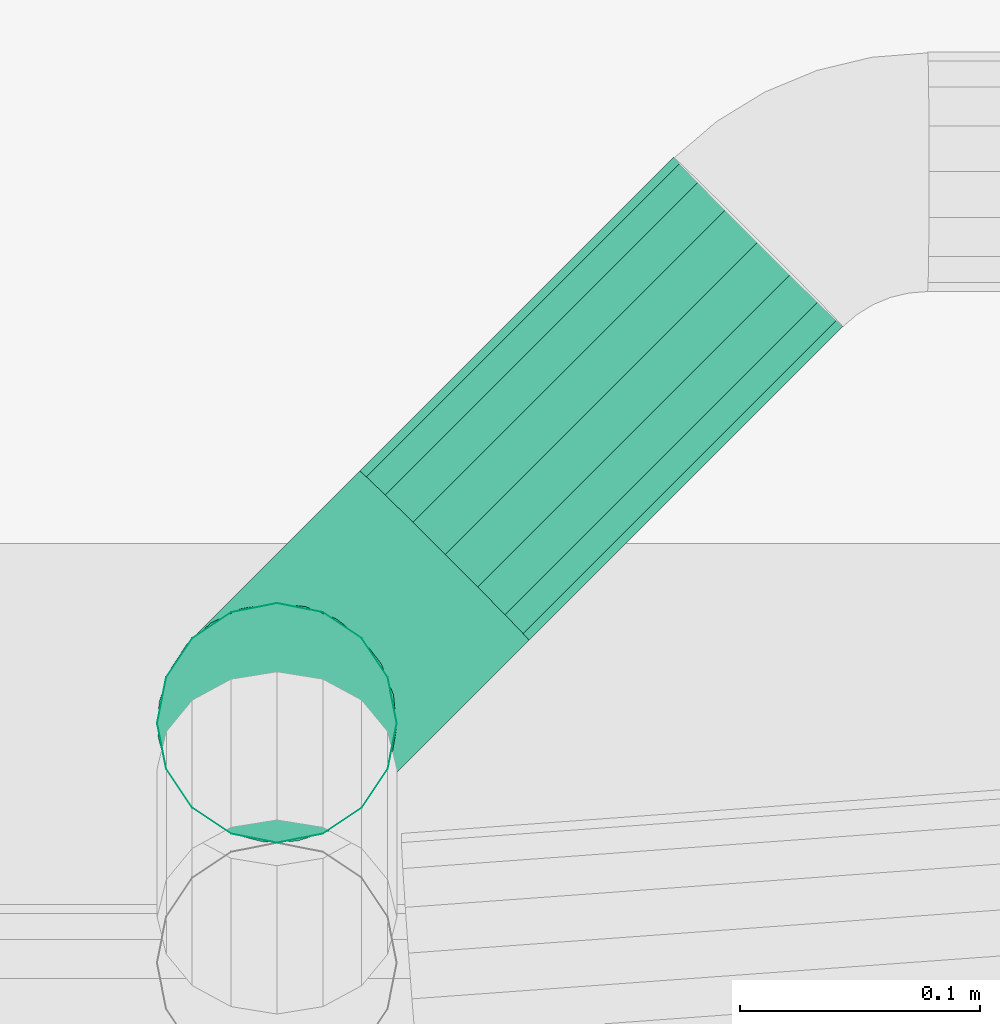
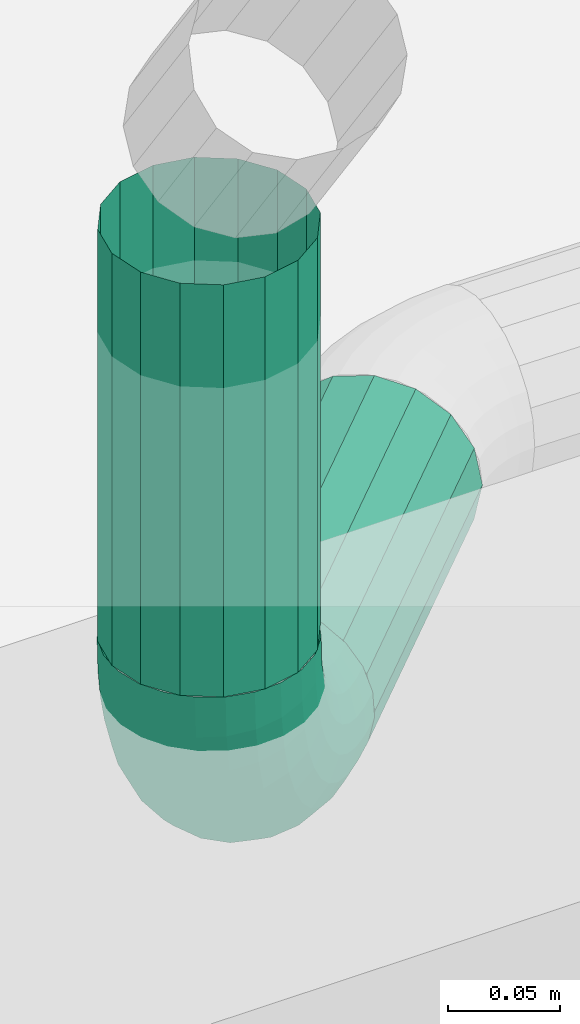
# One storey, part 87 of 108: 2 flow segments, 1 flow fitting.
"""IFC2X3 building model written with IfcOpenShell, lengths in metres."""

from ifc_helpers import new_model, entity, si_unit, converted_unit, derived_unit, money_unit, direction, frame, origin_with_axes, place, context, subcontext, project, spatial, open_shell, faceted_brep, surface_model, material, type_object, element, save


model = new_model("IFC2X3")

# Units and contexts
model_context = context("Model", 3, precision=1e-05, world=origin_with_axes(), true_north=direction((0.0, 1.0)))
body_context = subcontext(model_context, "Body", "Model", "MODEL_VIEW", scale=1.0)
ifc_project = project(units=[si_unit("LENGTHUNIT", "METRE"), si_unit("AREAUNIT", "SQUARE_METRE"), si_unit("VOLUMEUNIT", "CUBIC_METRE"), si_unit("ABSORBEDDOSEUNIT", "GRAY"), si_unit("AMOUNTOFSUBSTANCEUNIT", "MOLE"), si_unit("DOSEEQUIVALENTUNIT", "SIEVERT"), si_unit("ELECTRICCAPACITANCEUNIT", "FARAD"), si_unit("ELECTRICCHARGEUNIT", "COULOMB"), si_unit("ELECTRICCONDUCTANCEUNIT", "SIEMENS"), si_unit("ELECTRICCURRENTUNIT", "AMPERE"), si_unit("ELECTRICRESISTANCEUNIT", "OHM"), si_unit("ELECTRICVOLTAGEUNIT", "VOLT"), si_unit("ENERGYUNIT", "JOULE"), si_unit("FORCEUNIT", "NEWTON"), si_unit("FREQUENCYUNIT", "HERTZ"), si_unit("ILLUMINANCEUNIT", "LUX"), si_unit("INDUCTANCEUNIT", "HENRY"), si_unit("LUMINOUSFLUXUNIT", "LUMEN"), si_unit("LUMINOUSINTENSITYUNIT", "CANDELA"), si_unit("MAGNETICFLUXDENSITYUNIT", "TESLA"), si_unit("MAGNETICFLUXUNIT", "WEBER"), si_unit("MASSUNIT", "GRAM"), converted_unit("PLANEANGLEUNIT", "degree", entity("IfcReal", 0.0174532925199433), si_unit("PLANEANGLEUNIT", "RADIAN"), dimensions=[0, 0, 0, 0, 0, 0, 0]), si_unit("POWERUNIT", "WATT"), si_unit("PRESSUREUNIT", "PASCAL"), si_unit("RADIOACTIVITYUNIT", "BECQUEREL"), si_unit("SOLIDANGLEUNIT", "STERADIAN"), si_unit("THERMODYNAMICTEMPERATUREUNIT", "KELVIN"), si_unit("TIMEUNIT", "SECOND"), derived_unit("ACCELERATIONUNIT", [(si_unit("LENGTHUNIT", "METRE"), 1), (si_unit("TIMEUNIT", "SECOND"), -2)]), derived_unit("ANGULARVELOCITYUNIT", [(converted_unit("PLANEANGLEUNIT", "degree", entity("IfcReal", 0.0174532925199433), si_unit("PLANEANGLEUNIT", "RADIAN"), dimensions=[0, 0, 0, 0, 0, 0, 0]), 1), (si_unit("TIMEUNIT", "SECOND"), -1)]), derived_unit("CURVATUREUNIT", [(converted_unit("PLANEANGLEUNIT", "degree", entity("IfcReal", 0.0174532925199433), si_unit("PLANEANGLEUNIT", "RADIAN"), dimensions=[0, 0, 0, 0, 0, 0, 0]), 1), (si_unit("LENGTHUNIT", "METRE"), -1)]), derived_unit("DYNAMICVISCOSITYUNIT", [(si_unit("PRESSUREUNIT", "PASCAL"), 1), (si_unit("TIMEUNIT", "SECOND"), 1)]), derived_unit("HEATFLUXDENSITYUNIT", [(si_unit("POWERUNIT", "WATT"), 1), (si_unit("LENGTHUNIT", "METRE"), -2)]), derived_unit("HEATINGVALUEUNIT", [(si_unit("ENERGYUNIT", "JOULE"), 1), (si_unit("MASSUNIT", "GRAM"), -1)]), derived_unit("INTEGERCOUNTRATEUNIT", [(si_unit("TIMEUNIT", "SECOND"), -1)]), derived_unit("IONCONCENTRATIONUNIT", [(si_unit("MASSUNIT", "GRAM"), 1), (si_unit("VOLUMEUNIT", "CUBIC_METRE"), -1)]), derived_unit("ISOTHERMALMOISTURECAPACITYUNIT", [(si_unit("VOLUMEUNIT", "CUBIC_METRE"), 1), (si_unit("MASSUNIT", "GRAM"), -1)]), derived_unit("KINEMATICVISCOSITYUNIT", [(si_unit("AREAUNIT", "SQUARE_METRE"), 1), (si_unit("TIMEUNIT", "SECOND"), -1)]), derived_unit("LINEARFORCEUNIT", [(si_unit("FORCEUNIT", "NEWTON"), 1), (si_unit("LENGTHUNIT", "METRE"), -1)]), derived_unit("LINEARMOMENTUNIT", [(si_unit("FORCEUNIT", "NEWTON"), 1), (si_unit("LENGTHUNIT", "METRE"), -1)]), derived_unit("LINEARSTIFFNESSUNIT", [(si_unit("FORCEUNIT", "NEWTON"), 1), (si_unit("LENGTHUNIT", "METRE"), -1)]), derived_unit("LINEARVELOCITYUNIT", [(si_unit("LENGTHUNIT", "METRE"), 1), (si_unit("TIMEUNIT", "SECOND"), -1)]), derived_unit("LUMINOUSINTENSITYDISTRIBUTIONUNIT", [(si_unit("LUMINOUSINTENSITYUNIT", "CANDELA"), 1), (si_unit("LUMINOUSFLUXUNIT", "LUMEN"), -1)]), derived_unit("MASSDENSITYUNIT", [(si_unit("MASSUNIT", "GRAM"), 1), (si_unit("VOLUMEUNIT", "CUBIC_METRE"), -1)]), derived_unit("MASSFLOWRATEUNIT", [(si_unit("MASSUNIT", "GRAM"), 1), (si_unit("TIMEUNIT", "SECOND"), -1)]), derived_unit("MASSPERLENGTHUNIT", [(si_unit("MASSUNIT", "GRAM"), 1), (si_unit("LENGTHUNIT", "METRE"), -1)]), derived_unit("MODULUSOFELASTICITYUNIT", [(si_unit("FORCEUNIT", "NEWTON"), 1), (si_unit("AREAUNIT", "SQUARE_METRE"), -1)]), derived_unit("MODULUSOFLINEARSUBGRADEREACTIONUNIT", [(si_unit("FORCEUNIT", "NEWTON"), 1), (si_unit("LENGTHUNIT", "METRE"), -2)]), derived_unit("MODULUSOFROTATIONALSUBGRADEREACTIONUNIT", [(si_unit("FORCEUNIT", "NEWTON"), 1), (si_unit("LENGTHUNIT", "METRE"), 1)]), derived_unit("MODULUSOFSUBGRADEREACTIONUNIT", [(si_unit("FORCEUNIT", "NEWTON"), 1), (si_unit("VOLUMEUNIT", "CUBIC_METRE"), -1)]), derived_unit("MOISTUREDIFFUSIVITYUNIT", [(si_unit("VOLUMEUNIT", "CUBIC_METRE"), 1), (si_unit("TIMEUNIT", "SECOND"), -1)]), derived_unit("MOLECULARWEIGHTUNIT", [(si_unit("MASSUNIT", "GRAM"), 1), (si_unit("AMOUNTOFSUBSTANCEUNIT", "MOLE"), -1)]), derived_unit("PLANARFORCEUNIT", [(si_unit("FORCEUNIT", "NEWTON"), 1), (si_unit("LENGTHUNIT", "METRE"), -2)]), derived_unit("ROTATIONALFREQUENCYUNIT", [(si_unit("TIMEUNIT", "SECOND"), -1)]), derived_unit("ROTATIONALMASSUNIT", [(si_unit("MASSUNIT", "GRAM"), 1), (si_unit("LENGTHUNIT", "METRE"), 2)]), derived_unit("ROTATIONALSTIFFNESSUNIT", [(si_unit("FORCEUNIT", "NEWTON"), 1), (si_unit("LENGTHUNIT", "METRE"), 1), (converted_unit("PLANEANGLEUNIT", "degree", entity("IfcReal", 0.0174532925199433), si_unit("PLANEANGLEUNIT", "RADIAN"), dimensions=[0, 0, 0, 0, 0, 0, 0]), -1)]), derived_unit("SECTIONAREAINTEGRALUNIT", [(si_unit("LENGTHUNIT", "METRE"), 5)]), derived_unit("SECTIONMODULUSUNIT", [(si_unit("LENGTHUNIT", "METRE"), 3)]), derived_unit("SHEARMODULUSUNIT", [(si_unit("FORCEUNIT", "NEWTON"), 1), (si_unit("AREAUNIT", "SQUARE_METRE"), -1)]), derived_unit("SOUNDPOWERUNIT", [(si_unit("ENERGYUNIT", "JOULE"), 1), (si_unit("TIMEUNIT", "SECOND"), -1)]), derived_unit("SPECIFICHEATCAPACITYUNIT", [(si_unit("FORCEUNIT", "NEWTON"), 1), (si_unit("MASSUNIT", "GRAM"), -1), (si_unit("THERMODYNAMICTEMPERATUREUNIT", "KELVIN"), -1)]), derived_unit("TEMPERATUREGRADIENTUNIT", [(si_unit("THERMODYNAMICTEMPERATUREUNIT", "KELVIN"), 1), (si_unit("LENGTHUNIT", "METRE"), -1)]), derived_unit("THERMALADMITTANCEUNIT", [(si_unit("POWERUNIT", "WATT"), 1), (si_unit("AREAUNIT", "SQUARE_METRE"), -1), (si_unit("THERMODYNAMICTEMPERATUREUNIT", "KELVIN"), -1)]), derived_unit("THERMALCONDUCTANCEUNIT", [(si_unit("POWERUNIT", "WATT"), 1), (si_unit("LENGTHUNIT", "METRE"), -1), (si_unit("THERMODYNAMICTEMPERATUREUNIT", "KELVIN"), -1)]), derived_unit("THERMALEXPANSIONCOEFFICIENTUNIT", [(si_unit("THERMODYNAMICTEMPERATUREUNIT", "KELVIN"), -1)]), derived_unit("THERMALRESISTANCEUNIT", [(si_unit("AREAUNIT", "SQUARE_METRE"), 1), (si_unit("POWERUNIT", "WATT"), -1)]), derived_unit("THERMALTRANSMITTANCEUNIT", [(si_unit("POWERUNIT", "WATT"), 1), (si_unit("AREAUNIT", "SQUARE_METRE"), -1), (si_unit("THERMODYNAMICTEMPERATUREUNIT", "KELVIN"), -1)]), derived_unit("TORQUEUNIT", [(si_unit("FORCEUNIT", "NEWTON"), 1), (si_unit("LENGTHUNIT", "METRE"), 1)]), derived_unit("VAPORPERMEABILITYUNIT", [(si_unit("MASSUNIT", "GRAM"), 1), (si_unit("TIMEUNIT", "SECOND"), -1)]), derived_unit("VOLUMETRICFLOWRATEUNIT", [(si_unit("VOLUMEUNIT", "CUBIC_METRE"), 1), (si_unit("TIMEUNIT", "SECOND"), -1)]), derived_unit("WARPINGCONSTANTUNIT", [(si_unit("LENGTHUNIT", "METRE"), 6)]), derived_unit("WARPINGMOMENTUNIT", [(si_unit("FORCEUNIT", "NEWTON"), 1), (si_unit("LENGTHUNIT", "METRE"), 2)]), money_unit("GBP")], contexts=[model_context])

# Site, building, storey
site_placement = place(None, origin_with_axes())
site = spatial("IfcSite", under=ifc_project, at=site_placement, Name="Site", CompositionType="ELEMENT")
building_placement = place(site_placement, origin_with_axes())
building = spatial("IfcBuilding", under=site, at=building_placement, Name="Building01", CompositionType="ELEMENT")
storey_placement = place(building_placement, origin_with_axes())
storey = spatial("IfcBuildingStorey", under=building, at=storey_placement, Name="GF", CompositionType="ELEMENT", Elevation=0.0)

# Flow segments
ifc_material = material(Name="M_BSUK_ColdWater")
pipe_segment_type = type_object("IfcPipeSegmentType", Name="M-BmpStraightpipe-DefaultPipe", PredefinedType="RIGIDSEGMENT")
flow_segment_1_placement = place(storey_placement, frame((12.778585, 9.073056, 5.15473), z_axis=(1.0, 0.0, 0.0), x_axis=(0.0, 0.0, -1.0)))
element("IfcFlowSegment", 1, at=flow_segment_1_placement, inside=storey, type_object=pipe_segment_type, material=ifc_material, Name="M-BmpStraightpipe-DefaultPipe", ObjectType="M-BmpStraightpipe-DefaultPipe", context=body_context, shape_type="Brep", body=[
    faceted_brep([(0.224045, 0.0, -0.05), (0.0, 0.0, -0.05), (0.0, 0.019134, -0.046194), (0.224045, 0.019134, -0.046194), (0.0, 0.035355, -0.035355), (0.224045, 0.035355, -0.035355), (0.0, 0.046194, -0.019134), (0.224045, 0.046194, -0.019134), (0.0, 0.05, 0.0), (0.224045, 0.05, 0.0), (0.0, 0.046194, 0.019134), (0.224045, 0.046194, 0.019134), (0.0, 0.035355, 0.035355), (0.224045, 0.035355, 0.035355), (0.0, 0.019134, 0.046194), (0.224045, 0.019134, 0.046194), (0.0, 0.0, 0.05), (0.224045, 0.0, 0.05), (0.0, -0.019134, 0.046194), (0.224045, -0.019134, 0.046194), (0.0, -0.035355, 0.035355), (0.224045, -0.035355, 0.035355), (0.0, -0.046194, 0.019134), (0.224045, -0.046194, 0.019134), (0.0, -0.05, 0.0), (0.224045, -0.05, 0.0), (0.0, -0.046194, -0.019134), (0.224045, -0.046194, -0.019134), (0.0, -0.035355, -0.035355), (0.224045, -0.035355, -0.035355), (0.0, -0.019134, -0.046194), (0.224045, -0.019134, -0.046194)], [[[0, 1, 2, 3]], [[3, 2, 4, 5]], [[5, 4, 6, 7]], [[7, 6, 8, 9]], [[9, 8, 10, 11]], [[11, 10, 12, 13]], [[13, 12, 14, 15]], [[15, 14, 16, 17]], [[17, 16, 18, 19]], [[19, 18, 20, 21]], [[21, 20, 22, 23]], [[23, 22, 24, 25]], [[25, 24, 26, 27]], [[27, 26, 28, 29]], [[29, 28, 30, 31]], [[31, 30, 1, 0]]]),
])
flow_segment_2_placement = place(storey_placement, frame((12.848411, 9.142883, 4.830693), z_axis=(0.00883814, 0.00883814, 0.99992188), x_axis=(0.70705154, 0.70705154, -0.01249902)))
element("IfcFlowSegment", 2, at=flow_segment_2_placement, inside=storey, type_object=pipe_segment_type, material=ifc_material, Name="M-BmpStraightpipe-DefaultPipe", ObjectType="M-BmpStraightpipe-DefaultPipe", context=body_context, shape_type="Brep", body=[
    faceted_brep([(0.185116, 0.0, -0.05), (0.0, 0.0, -0.05), (0.0, 0.019134, -0.046194), (0.185116, 0.019134, -0.046194), (0.0, 0.035355, -0.035355), (0.185116, 0.035355, -0.035355), (0.0, 0.046194, -0.019134), (0.185116, 0.046194, -0.019134), (0.0, 0.05, 0.0), (0.185116, 0.05, 0.0), (0.0, 0.046194, 0.019134), (0.185116, 0.046194, 0.019134), (0.0, 0.035355, 0.035355), (0.185116, 0.035355, 0.035355), (0.0, 0.019134, 0.046194), (0.185116, 0.019134, 0.046194), (0.0, 0.0, 0.05), (0.185116, 0.0, 0.05), (0.0, -0.019134, 0.046194), (0.185116, -0.019134, 0.046194), (0.0, -0.035355, 0.035355), (0.185116, -0.035355, 0.035355), (0.0, -0.046194, 0.019134), (0.185116, -0.046194, 0.019134), (0.0, -0.05, 0.0), (0.185116, -0.05, 0.0), (0.0, -0.046194, -0.019134), (0.185116, -0.046194, -0.019134), (0.0, -0.035355, -0.035355), (0.185116, -0.035355, -0.035355), (0.0, -0.019134, -0.046194), (0.185116, -0.019134, -0.046194)], [[[0, 1, 2, 3]], [[3, 2, 4, 5]], [[5, 4, 6, 7]], [[7, 6, 8, 9]], [[9, 8, 10, 11]], [[11, 10, 12, 13]], [[13, 12, 14, 15]], [[15, 14, 16, 17]], [[17, 16, 18, 19]], [[19, 18, 20, 21]], [[21, 20, 22, 23]], [[23, 22, 24, 25]], [[25, 24, 26, 27]], [[27, 26, 28, 29]], [[29, 28, 30, 31]], [[31, 30, 1, 0]]]),
])

# Flow fitting
pipe_fitting_type = type_object("IfcPipeFittingType", Name="M-BmpElbow-DefaultElbow", PredefinedType="BEND")
flow_fitting_placement = place(storey_placement, frame((12.778585, 9.073056, 4.930685), z_axis=(-0.70710678, -0.70710678, 0.0), x_axis=(0.0, 0.0, -1.0)))
element("IfcFlowFitting", 3, at=flow_fitting_placement, inside=storey, type_object=pipe_fitting_type, material=ifc_material, Name="M-BmpElbow-DefaultElbow", ObjectType="M-BmpElbow-DefaultElbow", context=body_context, shape_type="SurfaceModel", body=[
    surface_model("IfcShellBasedSurfaceModel", [(0.008048, -0.01349, -0.048774), (0.0, -0.01349, -0.048146), (0.0, 0.0, -0.05), (0.00776, 0.0, -0.050606), (0.0159, -0.01349, -0.050644), (0.015332, 0.0, -0.052409), (0.023368, -0.01349, -0.05371), (0.022532, 0.0, -0.055365), (0.030269, -0.01349, -0.057897), (0.029187, 0.0, -0.059403), (0.036437, -0.01349, -0.063105), (0.035134, 0.0, -0.064424), (0.041721, -0.01349, -0.069207), (0.040229, 0.0, -0.070308), (0.045995, -0.01349, -0.076055), (0.04435, 0.0, -0.076912), (0.049154, -0.01349, -0.083484), (0.047396, 0.0, -0.084074), (0.051121, -0.01349, -0.091313), (0.049293, 0.0, -0.091623), (0.05185, -0.01349, -0.099352), (0.049996, 0.0, -0.099375), (0.00889, -0.025979, -0.043415), (0.0, -0.025979, -0.042721), (0.017564, -0.025979, -0.04548), (0.025813, -0.025979, -0.048867), (0.033436, -0.025979, -0.053493), (0.040248, -0.025979, -0.059245), (0.046086, -0.025979, -0.065986), (0.050807, -0.025979, -0.07355), (0.054296, -0.025979, -0.081756), (0.056469, -0.025979, -0.090404), (0.057275, -0.025979, -0.099284), (0.010223, -0.036542, -0.034926), (0.0, -0.036542, -0.034128), (0.020199, -0.036542, -0.037301), (0.029685, -0.036542, -0.041196), (0.038452, -0.036542, -0.046515), (0.046287, -0.036542, -0.053131), (0.053, -0.036542, -0.060883), (0.058429, -0.036542, -0.069582), (0.062442, -0.036542, -0.079019), (0.064941, -0.036542, -0.088964), (0.065867, -0.036542, -0.099177), (0.01195, -0.044394, -0.023936), (0.0, -0.044394, -0.023003), (0.02361, -0.044394, -0.026712), (0.034698, -0.044394, -0.031265), (0.044946, -0.044394, -0.037483), (0.054104, -0.044394, -0.045216), (0.061951, -0.044394, -0.054277), (0.068296, -0.044394, -0.064445), (0.072987, -0.044394, -0.075476), (0.075908, -0.044394, -0.0871), (0.076991, -0.044394, -0.099038), (0.013941, -0.048954, -0.011261), (0.0, -0.048954, -0.010173), (0.027544, -0.048954, -0.0145), (0.04048, -0.048954, -0.019811), (0.052435, -0.048954, -0.027065), (0.063119, -0.048954, -0.036087), (0.072274, -0.048954, -0.046657), (0.079677, -0.048954, -0.058521), (0.085149, -0.048954, -0.071389), (0.088558, -0.048954, -0.084951), (0.08982, -0.048954, -0.098877), (0.01605, -0.049883, 0.002159), (0.0, -0.049883, 0.003412), (0.03171, -0.049883, -0.00157), (0.046602, -0.049883, -0.007684), (0.060365, -0.049883, -0.016035), (0.072665, -0.049883, -0.026421), (0.083204, -0.049883, -0.03859), (0.091727, -0.049883, -0.052247), (0.098026, -0.049883, -0.067062), (0.101951, -0.049883, -0.082675), (0.103404, -0.049883, -0.098707), (0.018119, -0.047113, 0.015329), (0.0, -0.047113, 0.016744), (0.035798, -0.047113, 0.01112), (0.05261, -0.047113, 0.004218), (0.068147, -0.047113, -0.00521), (0.082033, -0.047113, -0.016935), (0.093931, -0.047113, -0.030673), (0.103552, -0.047113, -0.046091), (0.110664, -0.047113, -0.062816), (0.115094, -0.047113, -0.080441), (0.116735, -0.047113, -0.098541), (0.019995, -0.040848, 0.027273), (0.0, -0.040848, 0.028834), (0.039505, -0.040848, 0.022628), (0.058059, -0.040848, 0.01501), (0.075205, -0.040848, 0.004606), (0.090528, -0.040848, -0.008333), (0.103658, -0.040848, -0.023494), (0.114276, -0.040848, -0.040508), (0.122124, -0.040848, -0.058965), (0.127013, -0.040848, -0.078416), (0.128824, -0.040848, -0.09839), (0.021539, -0.031554, 0.037104), (0.0, -0.031554, 0.038786), (0.042557, -0.031554, 0.0321), (0.062543, -0.031554, 0.023894), (0.081014, -0.031554, 0.012686), (0.097521, -0.031554, -0.001252), (0.111665, -0.031554, -0.017584), (0.123103, -0.031554, -0.035913), (0.131557, -0.031554, -0.055795), (0.136824, -0.031554, -0.076749), (0.138775, -0.031554, -0.098265), (0.022638, -0.01992, 0.044093), (0.0, -0.01992, 0.045861), (0.044726, -0.01992, 0.038834), (0.065732, -0.01992, 0.03021), (0.085144, -0.01992, 0.018431), (0.102492, -0.01992, 0.003782), (0.117357, -0.01992, -0.013383), (0.129378, -0.01992, -0.032646), (0.138264, -0.01992, -0.053542), (0.143799, -0.01992, -0.075563), (0.145849, -0.01992, -0.098177), (0.023208, -0.006808, 0.047722), (0.0, -0.006808, 0.049534), (0.045853, -0.006808, 0.042331), (0.067387, -0.006808, 0.03349), (0.087288, -0.006808, 0.021414), (0.105074, -0.006808, 0.006395), (0.120313, -0.006808, -0.011201), (0.132637, -0.006808, -0.03095), (0.141746, -0.006808, -0.052372), (0.147421, -0.006808, -0.074948), (0.149523, -0.006808, -0.098131), (0.023208, 0.006808, 0.047722), (0.0, 0.006808, 0.049534), (0.045853, 0.006808, 0.042331), (0.067387, 0.006808, 0.03349), (0.087288, 0.006808, 0.021414), (0.105074, 0.006808, 0.006395), (0.120313, 0.006808, -0.011201), (0.132637, 0.006808, -0.03095), (0.141746, 0.006808, -0.052372), (0.147421, 0.006808, -0.074948), (0.149523, 0.006808, -0.098131), (0.022638, 0.01992, 0.044093), (0.0, 0.01992, 0.045861), (0.044726, 0.01992, 0.038834), (0.065732, 0.01992, 0.03021), (0.085144, 0.01992, 0.018431), (0.102492, 0.01992, 0.003782), (0.117357, 0.01992, -0.013383), (0.129378, 0.01992, -0.032646), (0.138264, 0.01992, -0.053542), (0.143799, 0.01992, -0.075563), (0.145849, 0.01992, -0.098177), (0.021539, 0.031554, 0.037104), (0.0, 0.031554, 0.038786), (0.042557, 0.031554, 0.0321), (0.062543, 0.031554, 0.023894), (0.081014, 0.031554, 0.012686), (0.097521, 0.031554, -0.001252), (0.111665, 0.031554, -0.017584), (0.123103, 0.031554, -0.035913), (0.131557, 0.031554, -0.055795), (0.136824, 0.031554, -0.076749), (0.138775, 0.031554, -0.098265), (0.019995, 0.040848, 0.027273), (0.0, 0.040848, 0.028834), (0.039505, 0.040848, 0.022628), (0.058059, 0.040848, 0.01501), (0.075205, 0.040848, 0.004606), (0.090528, 0.040848, -0.008333), (0.103658, 0.040848, -0.023494), (0.114276, 0.040848, -0.040508), (0.122124, 0.040848, -0.058965), (0.127013, 0.040848, -0.078416), (0.128824, 0.040848, -0.09839), (0.018119, 0.047113, 0.015329), (0.0, 0.047113, 0.016744), (0.035798, 0.047113, 0.01112), (0.05261, 0.047113, 0.004218), (0.068147, 0.047113, -0.00521), (0.082033, 0.047113, -0.016935), (0.093931, 0.047113, -0.030673), (0.103552, 0.047113, -0.046091), (0.110664, 0.047113, -0.062816), (0.115094, 0.047113, -0.080441), (0.116735, 0.047113, -0.098541), (0.01605, 0.049883, 0.002159), (0.0, 0.049883, 0.003412), (0.03171, 0.049883, -0.00157), (0.046602, 0.049883, -0.007684), (0.060365, 0.049883, -0.016035), (0.072665, 0.049883, -0.026421), (0.083204, 0.049883, -0.03859), (0.091727, 0.049883, -0.052247), (0.098026, 0.049883, -0.067062), (0.101951, 0.049883, -0.082675), (0.103404, 0.049883, -0.098707), (0.013941, 0.048954, -0.011261), (0.0, 0.048954, -0.010173), (0.027544, 0.048954, -0.0145), (0.04048, 0.048954, -0.019811), (0.052435, 0.048954, -0.027065), (0.063119, 0.048954, -0.036087), (0.072274, 0.048954, -0.046657), (0.079677, 0.048954, -0.058521), (0.085149, 0.048954, -0.071389), (0.088558, 0.048954, -0.084951), (0.08982, 0.048954, -0.098877), (0.01195, 0.044394, -0.023936), (0.0, 0.044394, -0.023003), (0.02361, 0.044394, -0.026712), (0.034698, 0.044394, -0.031265), (0.044946, 0.044394, -0.037483), (0.054104, 0.044394, -0.045216), (0.061951, 0.044394, -0.054277), (0.068296, 0.044394, -0.064445), (0.072987, 0.044394, -0.075476), (0.075908, 0.044394, -0.0871), (0.076991, 0.044394, -0.099038), (0.010223, 0.036542, -0.034926), (0.0, 0.036542, -0.034128), (0.020199, 0.036542, -0.037301), (0.029685, 0.036542, -0.041196), (0.038452, 0.036542, -0.046515), (0.046287, 0.036542, -0.053131), (0.053, 0.036542, -0.060883), (0.058429, 0.036542, -0.069582), (0.062442, 0.036542, -0.079019), (0.064941, 0.036542, -0.088964), (0.065867, 0.036542, -0.099177), (0.00889, 0.025979, -0.043415), (0.0, 0.025979, -0.042721), (0.017564, 0.025979, -0.04548), (0.025813, 0.025979, -0.048867), (0.033436, 0.025979, -0.053493), (0.040248, 0.025979, -0.059245), (0.046086, 0.025979, -0.065986), (0.050807, 0.025979, -0.07355), (0.054296, 0.025979, -0.081756), (0.056469, 0.025979, -0.090404), (0.057275, 0.025979, -0.099284), (0.008048, 0.01349, -0.048774), (0.0, 0.01349, -0.048146), (0.0159, 0.01349, -0.050644), (0.023368, 0.01349, -0.05371), (0.030269, 0.01349, -0.057897), (0.036437, 0.01349, -0.063105), (0.041721, 0.01349, -0.069207), (0.045995, 0.01349, -0.076055), (0.049154, 0.01349, -0.083484), (0.051121, 0.01349, -0.091313), (0.05185, 0.01349, -0.099352)], [open_shell([[[0, 1, 2, 3]], [[4, 0, 3, 5]], [[6, 4, 5, 7]], [[8, 6, 7, 9]], [[10, 8, 9, 11]], [[12, 10, 11, 13]], [[14, 12, 13, 15]], [[16, 14, 15, 17]], [[18, 16, 17, 19]], [[20, 18, 19, 21]], [[22, 23, 1, 0]], [[24, 22, 0, 4]], [[25, 24, 4, 6]], [[26, 25, 6, 8]], [[27, 26, 8, 10]], [[28, 27, 10, 12]], [[29, 28, 12, 14]], [[30, 29, 14, 16]], [[31, 30, 16, 18]], [[32, 31, 18, 20]], [[33, 34, 23, 22]], [[35, 33, 22, 24]], [[36, 35, 24, 25]], [[37, 36, 25, 26]], [[38, 37, 26, 27]], [[39, 38, 27, 28]], [[40, 39, 28, 29]], [[41, 40, 29, 30]], [[42, 41, 30, 31]], [[43, 42, 31, 32]], [[44, 45, 34, 33]], [[46, 44, 33, 35]], [[47, 46, 35, 36]], [[48, 47, 36, 37]], [[49, 48, 37, 38]], [[50, 49, 38, 39]], [[51, 50, 39, 40]], [[52, 51, 40, 41]], [[53, 52, 41, 42]], [[54, 53, 42, 43]], [[55, 56, 45, 44]], [[57, 55, 44, 46]], [[58, 57, 46, 47]], [[59, 58, 47, 48]], [[60, 59, 48, 49]], [[61, 60, 49, 50]], [[62, 61, 50, 51]], [[63, 62, 51, 52]], [[64, 63, 52, 53]], [[65, 64, 53, 54]], [[66, 67, 56, 55]], [[68, 66, 55, 57]], [[69, 68, 57, 58]], [[70, 69, 58, 59]], [[71, 70, 59, 60]], [[72, 71, 60, 61]], [[73, 72, 61, 62]], [[74, 73, 62, 63]], [[75, 74, 63, 64]], [[76, 75, 64, 65]], [[77, 78, 67, 66]], [[79, 77, 66, 68]], [[80, 79, 68, 69]], [[81, 80, 69, 70]], [[82, 81, 70, 71]], [[83, 82, 71, 72]], [[84, 83, 72, 73]], [[85, 84, 73, 74]], [[86, 85, 74, 75]], [[87, 86, 75, 76]], [[88, 89, 78, 77]], [[90, 88, 77, 79]], [[91, 90, 79, 80]], [[92, 91, 80, 81]], [[93, 92, 81, 82]], [[94, 93, 82, 83]], [[95, 94, 83, 84]], [[96, 95, 84, 85]], [[97, 96, 85, 86]], [[98, 97, 86, 87]], [[99, 100, 89, 88]], [[101, 99, 88, 90]], [[102, 101, 90, 91]], [[103, 102, 91, 92]], [[104, 103, 92, 93]], [[105, 104, 93, 94]], [[106, 105, 94, 95]], [[107, 106, 95, 96]], [[108, 107, 96, 97]], [[109, 108, 97, 98]], [[110, 111, 100, 99]], [[112, 110, 99, 101]], [[113, 112, 101, 102]], [[114, 113, 102, 103]], [[115, 114, 103, 104]], [[116, 115, 104, 105]], [[117, 116, 105, 106]], [[118, 117, 106, 107]], [[119, 118, 107, 108]], [[120, 119, 108, 109]], [[121, 122, 111, 110]], [[123, 121, 110, 112]], [[124, 123, 112, 113]], [[125, 124, 113, 114]], [[126, 125, 114, 115]], [[127, 126, 115, 116]], [[128, 127, 116, 117]], [[129, 128, 117, 118]], [[130, 129, 118, 119]], [[131, 130, 119, 120]], [[132, 133, 122, 121]], [[134, 132, 121, 123]], [[135, 134, 123, 124]], [[136, 135, 124, 125]], [[137, 136, 125, 126]], [[138, 137, 126, 127]], [[139, 138, 127, 128]], [[140, 139, 128, 129]], [[141, 140, 129, 130]], [[142, 141, 130, 131]], [[143, 144, 133, 132]], [[145, 143, 132, 134]], [[146, 145, 134, 135]], [[147, 146, 135, 136]], [[148, 147, 136, 137]], [[149, 148, 137, 138]], [[150, 149, 138, 139]], [[151, 150, 139, 140]], [[152, 151, 140, 141]], [[153, 152, 141, 142]], [[154, 155, 144, 143]], [[156, 154, 143, 145]], [[157, 156, 145, 146]], [[158, 157, 146, 147]], [[159, 158, 147, 148]], [[160, 159, 148, 149]], [[161, 160, 149, 150]], [[162, 161, 150, 151]], [[163, 162, 151, 152]], [[164, 163, 152, 153]], [[165, 166, 155, 154]], [[167, 165, 154, 156]], [[168, 167, 156, 157]], [[169, 168, 157, 158]], [[170, 169, 158, 159]], [[171, 170, 159, 160]], [[172, 171, 160, 161]], [[173, 172, 161, 162]], [[174, 173, 162, 163]], [[175, 174, 163, 164]], [[176, 177, 166, 165]], [[178, 176, 165, 167]], [[179, 178, 167, 168]], [[180, 179, 168, 169]], [[181, 180, 169, 170]], [[182, 181, 170, 171]], [[183, 182, 171, 172]], [[184, 183, 172, 173]], [[185, 184, 173, 174]], [[186, 185, 174, 175]], [[187, 188, 177, 176]], [[189, 187, 176, 178]], [[190, 189, 178, 179]], [[191, 190, 179, 180]], [[192, 191, 180, 181]], [[193, 192, 181, 182]], [[194, 193, 182, 183]], [[195, 194, 183, 184]], [[196, 195, 184, 185]], [[197, 196, 185, 186]], [[198, 199, 188, 187]], [[200, 198, 187, 189]], [[201, 200, 189, 190]], [[202, 201, 190, 191]], [[203, 202, 191, 192]], [[204, 203, 192, 193]], [[205, 204, 193, 194]], [[206, 205, 194, 195]], [[207, 206, 195, 196]], [[208, 207, 196, 197]], [[209, 210, 199, 198]], [[211, 209, 198, 200]], [[212, 211, 200, 201]], [[213, 212, 201, 202]], [[214, 213, 202, 203]], [[215, 214, 203, 204]], [[216, 215, 204, 205]], [[217, 216, 205, 206]], [[218, 217, 206, 207]], [[219, 218, 207, 208]], [[220, 221, 210, 209]], [[222, 220, 209, 211]], [[223, 222, 211, 212]], [[224, 223, 212, 213]], [[225, 224, 213, 214]], [[226, 225, 214, 215]], [[227, 226, 215, 216]], [[228, 227, 216, 217]], [[229, 228, 217, 218]], [[230, 229, 218, 219]], [[231, 232, 221, 220]], [[233, 231, 220, 222]], [[234, 233, 222, 223]], [[235, 234, 223, 224]], [[236, 235, 224, 225]], [[237, 236, 225, 226]], [[238, 237, 226, 227]], [[239, 238, 227, 228]], [[240, 239, 228, 229]], [[241, 240, 229, 230]], [[242, 243, 232, 231]], [[244, 242, 231, 233]], [[245, 244, 233, 234]], [[246, 245, 234, 235]], [[247, 246, 235, 236]], [[248, 247, 236, 237]], [[249, 248, 237, 238]], [[250, 249, 238, 239]], [[251, 250, 239, 240]], [[252, 251, 240, 241]], [[3, 2, 243, 242]], [[5, 3, 242, 244]], [[7, 5, 244, 245]], [[9, 7, 245, 246]], [[11, 9, 246, 247]], [[13, 11, 247, 248]], [[15, 13, 248, 249]], [[17, 15, 249, 250]], [[19, 17, 250, 251]], [[21, 19, 251, 252]]])]),
])

save(model, "model.ifc")
